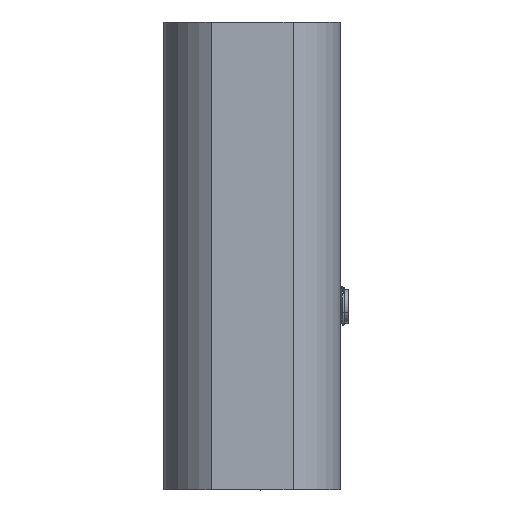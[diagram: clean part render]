
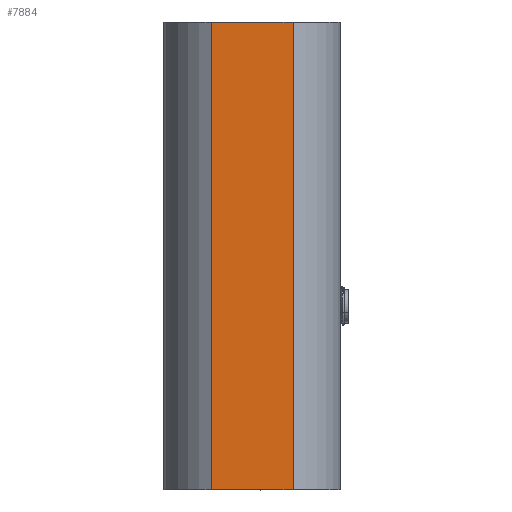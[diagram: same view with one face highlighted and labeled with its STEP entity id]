
A CAD part, front view. The second image highlights one B-rep face of the part: STEP entity #7884.
In plain terms, the highlighted planar face has unit normal (0, -1, 0).
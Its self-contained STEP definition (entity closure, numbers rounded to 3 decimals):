
#5795=FACE_OUTER_BOUND('',#9933,.T.);
#7884=ADVANCED_FACE('',(#5795),#8288,.F.);
#8288=PLANE('',#22827);
#9933=EDGE_LOOP('',(#15244,#15245,#15246,#15247));
#15244=ORIENTED_EDGE('',*,*,#19130,.F.);
#15245=ORIENTED_EDGE('',*,*,#19126,.T.);
#15246=ORIENTED_EDGE('',*,*,#19138,.T.);
#15247=ORIENTED_EDGE('',*,*,#19134,.T.);
#16791=VERTEX_POINT('',#42911);
#16792=VERTEX_POINT('',#42912);
#16795=VERTEX_POINT('',#42920);
#16798=VERTEX_POINT('',#42928);
#19126=EDGE_CURVE('',#16791,#16792,#20206,.T.);
#19130=EDGE_CURVE('',#16791,#16795,#20208,.T.);
#19134=EDGE_CURVE('',#16798,#16795,#20210,.T.);
#19138=EDGE_CURVE('',#16792,#16798,#20212,.T.);
#20206=LINE('',#42910,#21378);
#20208=LINE('',#42919,#21380);
#20210=LINE('',#42927,#21382);
#20212=LINE('',#42935,#21384);
#21378=VECTOR('',#26788,1.);
#21380=VECTOR('',#26796,1.);
#21382=VECTOR('',#26804,1.);
#21384=VECTOR('',#26812,1.);
#22827=AXIS2_PLACEMENT_3D('',#45501,#26870,#26871);
#26788=DIRECTION('',(0.,0.,1.));
#26796=DIRECTION('',(-1.,0.,0.));
#26804=DIRECTION('',(0.,0.,-1.));
#26812=DIRECTION('',(-1.,0.,0.));
#26870=DIRECTION('',(0.,1.,0.));
#26871=DIRECTION('',(-1.,0.,0.));
#42910=CARTESIAN_POINT('',(12.232,-31.5,245.5));
#42911=CARTESIAN_POINT('',(12.232,-31.5,88.));
#42912=CARTESIAN_POINT('',(12.232,-31.5,228.));
#42919=CARTESIAN_POINT('',(-0.016,-31.5,88.));
#42920=CARTESIAN_POINT('',(-12.263,-31.5,88.));
#42927=CARTESIAN_POINT('',(-12.263,-31.5,245.5));
#42928=CARTESIAN_POINT('',(-12.263,-31.5,228.));
#42935=CARTESIAN_POINT('',(-0.016,-31.5,228.));
#45501=CARTESIAN_POINT('',(-0.016,-31.5,163.));
